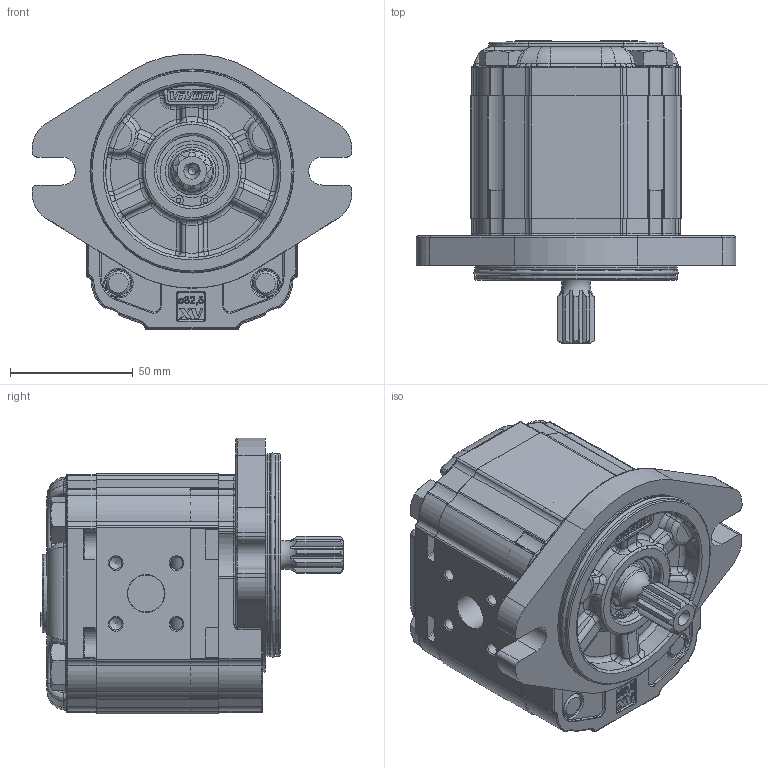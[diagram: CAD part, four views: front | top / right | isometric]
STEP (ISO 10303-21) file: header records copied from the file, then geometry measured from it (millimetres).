
FILE_DESCRIPTION( ( 'Unknown' ), '1' );
FILE_NAME( 'P:/montaggio_easy/output/STP/X2R4331IRRF.stp', 'Unknown', ( 'Unknown' ), ( 'Unknown' ), 'PSStep 14.0', 'Unknown', ' ' );
FILE_SCHEMA( ( 'AUTOMOTIVE_DESIGN { 1 0 10303 214 1 1 1 1 }' ) );
Length unit declared in the file: millimetre
Products named in the file (5): Assem1; X2R31; 2I; X2RRH50; XR219-F
Bounding box: 130.38 x 123.2 x 112.3 mm (x, y, z)
Volume: 1357297.5 mm3; surface area: 214555.5 mm2
Topology: 8 solids, 10 shells, 3958 faces, 10182 edges, 6486 vertices
Faces by surface type: plane 1828, cylinder 1038, extrusion 420, torus 320, bspline 188, cone 112, sphere 52
Full cylindrical faces by diameter (mm): 2 x4, 5 x16, 10.5 x8, 11 x4, 15 x4, 16 x8, 17.42 x2, 17.48 x4, 18.724 x2, 20.595 x2, 21.741 x2, 25.834 x2, 28.56 x2, 28.57 x2, 28.8 x2, 30.4 x2, 79.6 x4, 82.5 x4
Entity records: 85009 total; most frequent: CARTESIAN_POINT 22127, ORIENTED_EDGE 9876, DIRECTION 9322, EDGE_CURVE 4938, VERTEX_POINT 3196, AXIS2_PLACEMENT_3D 3116, VECTOR 3090, LINE 2880
